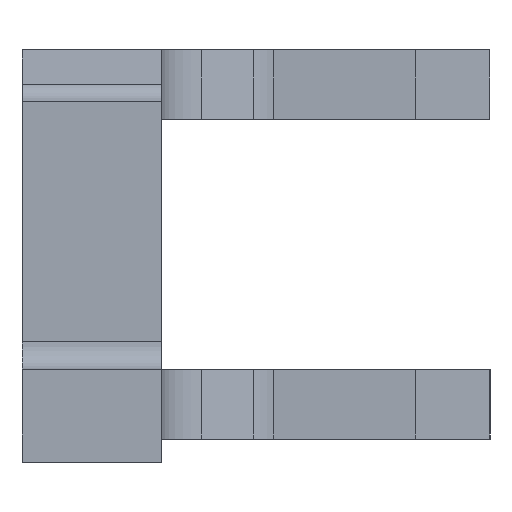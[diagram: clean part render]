
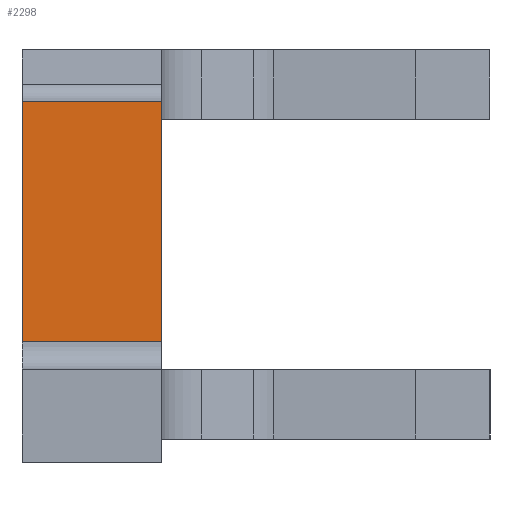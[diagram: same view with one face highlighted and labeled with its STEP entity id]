
A CAD part, left-side view. The second image highlights one B-rep face of the part: STEP entity #2298.
In plain terms, the highlighted planar face has unit normal (-1, 0, 0).
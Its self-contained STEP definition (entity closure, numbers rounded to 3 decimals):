
#1219=CARTESIAN_POINT('',(-76.338,53.375,-8.144));
#1220=VERTEX_POINT('',#1219);
#1228=CARTESIAN_POINT('',(-76.338,53.375,-60.));
#1229=VERTEX_POINT('',#1228);
#1230=CARTESIAN_POINT('',(-76.338,53.375,-8.144));
#1231=DIRECTION('',(0.0,0.0,-1.0));
#1232=VECTOR('',#1231,51.856);
#1233=LINE('',#1230,#1232);
#1234=EDGE_CURVE('',#1220,#1229,#1233,.T.);
#2163=CARTESIAN_POINT('',(-76.338,83.375,-60.));
#2164=VERTEX_POINT('',#2163);
#2172=CARTESIAN_POINT('',(-76.338,83.375,-8.144));
#2173=VERTEX_POINT('',#2172);
#2174=CARTESIAN_POINT('',(-76.338,83.375,-60.));
#2175=DIRECTION('',(0.0,0.0,1.0));
#2176=VECTOR('',#2175,51.856);
#2177=LINE('',#2174,#2176);
#2178=EDGE_CURVE('',#2164,#2173,#2177,.T.);
#2273=CARTESIAN_POINT('',(-76.338,83.375,-8.144));
#2274=DIRECTION('',(0.0,-1.0,0.0));
#2275=VECTOR('',#2274,30.);
#2276=LINE('',#2273,#2275);
#2277=EDGE_CURVE('',#2173,#1220,#2276,.T.);
#2282=CARTESIAN_POINT('',(-76.338,83.375,-8.144));
#2283=DIRECTION('',(1.0,0.0,0.0));
#2284=DIRECTION('',(0.0,0.0,-1.0));
#2285=AXIS2_PLACEMENT_3D('',#2282,#2283,#2284);
#2286=PLANE('',#2285);
#2287=ORIENTED_EDGE('',*,*,#1234,.F.);
#2288=ORIENTED_EDGE('',*,*,#2277,.F.);
#2289=ORIENTED_EDGE('',*,*,#2178,.F.);
#2290=CARTESIAN_POINT('',(-76.338,83.375,-60.));
#2291=DIRECTION('',(0.0,-1.0,0.0));
#2292=VECTOR('',#2291,30.);
#2293=LINE('',#2290,#2292);
#2294=EDGE_CURVE('',#2164,#1229,#2293,.T.);
#2295=ORIENTED_EDGE('',*,*,#2294,.T.);
#2296=EDGE_LOOP('',(#2287,#2288,#2289,#2295));
#2297=FACE_OUTER_BOUND('',#2296,.T.);
#2298=ADVANCED_FACE('',(#2297),#2286,.F.);
